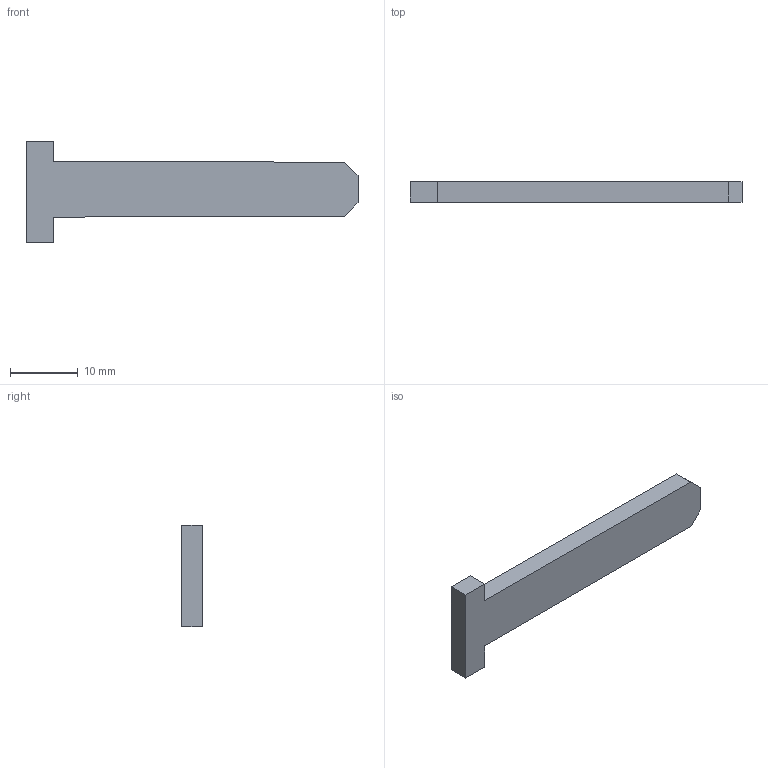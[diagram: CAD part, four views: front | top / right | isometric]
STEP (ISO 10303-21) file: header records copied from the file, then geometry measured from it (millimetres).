
FILE_DESCRIPTION(('FreeCAD Model'),'2;1');
FILE_NAME('Open CASCADE Shape Model','2024-06-26T11:40:51',('FreeCAD'),( 'FreeCAD'),'Open CASCADE STEP processor 7.6','FreeCAD','Unknown');
FILE_SCHEMA(('AUTOMOTIVE_DESIGN { 1 0 10303 214 1 1 1 1 }'));
Length unit declared in the file: millimetre
Products named in the file (1): Open CASCADE STEP translator 7.6 17
Bounding box: 49 x 3 x 15 mm (x, y, z)
Volume: 1261.5 mm3; surface area: 1217.4 mm2
Topology: 1 solids, 1 shells, 12 faces, 30 edges, 20 vertices
Faces by surface type: plane 12
Entity records: 364 total; most frequent: CARTESIAN_POINT 63, ORIENTED_EDGE 60, DIRECTION 56, EDGE_CURVE 30, LINE 30, VECTOR 30, VERTEX_POINT 20, AXIS2_PLACEMENT_3D 13
